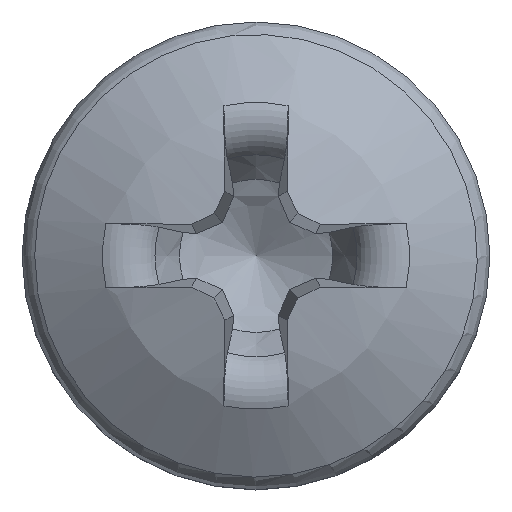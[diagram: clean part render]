
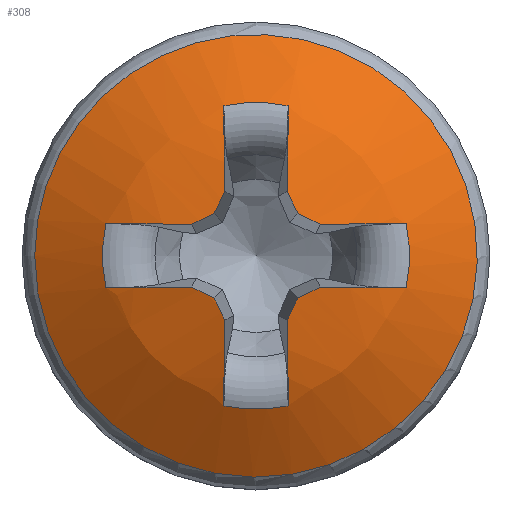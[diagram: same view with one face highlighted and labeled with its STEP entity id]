
A CAD part, top view. The second image highlights one B-rep face of the part: STEP entity #308.
In plain terms, the highlighted spherical face has radius 5.559 mm.
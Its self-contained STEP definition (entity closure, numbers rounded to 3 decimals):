
#279=SPHERICAL_SURFACE('',#1705,5.56);
#290=FACE_BOUND('',#519,.T.);
#291=FACE_BOUND('',#520,.T.);
#308=ADVANCED_FACE('',(#290,#291),#279,.T.);
#519=EDGE_LOOP('',(#685));
#520=EDGE_LOOP('',(#686,#687,#688,#689,#690,#691,#692,#693,#694,#695,#696,
#697,#698,#699,#700,#701,#702,#703,#704,#705));
#633=CIRCLE('',#1684,3.311);
#634=CIRCLE('',#1685,5.559);
#635=CIRCLE('',#1686,2.296);
#636=CIRCLE('',#1687,5.559);
#637=CIRCLE('',#1688,5.552);
#638=CIRCLE('',#1689,5.552);
#639=CIRCLE('',#1690,5.559);
#640=CIRCLE('',#1691,2.296);
#641=CIRCLE('',#1692,5.559);
#642=CIRCLE('',#1693,5.552);
#643=CIRCLE('',#1694,5.552);
#644=CIRCLE('',#1695,5.559);
#645=CIRCLE('',#1696,2.296);
#646=CIRCLE('',#1697,5.559);
#647=CIRCLE('',#1698,5.552);
#648=CIRCLE('',#1699,5.552);
#649=CIRCLE('',#1700,5.559);
#650=CIRCLE('',#1701,2.296);
#651=CIRCLE('',#1702,5.559);
#652=CIRCLE('',#1703,5.552);
#653=CIRCLE('',#1704,5.552);
#685=ORIENTED_EDGE('',*,*,#1321,.T.);
#686=ORIENTED_EDGE('',*,*,#1322,.F.);
#687=ORIENTED_EDGE('',*,*,#1323,.T.);
#688=ORIENTED_EDGE('',*,*,#1324,.F.);
#689=ORIENTED_EDGE('',*,*,#1325,.F.);
#690=ORIENTED_EDGE('',*,*,#1326,.F.);
#691=ORIENTED_EDGE('',*,*,#1327,.F.);
#692=ORIENTED_EDGE('',*,*,#1328,.T.);
#693=ORIENTED_EDGE('',*,*,#1329,.F.);
#694=ORIENTED_EDGE('',*,*,#1330,.F.);
#695=ORIENTED_EDGE('',*,*,#1331,.F.);
#696=ORIENTED_EDGE('',*,*,#1332,.F.);
#697=ORIENTED_EDGE('',*,*,#1333,.T.);
#698=ORIENTED_EDGE('',*,*,#1334,.F.);
#699=ORIENTED_EDGE('',*,*,#1335,.F.);
#700=ORIENTED_EDGE('',*,*,#1336,.F.);
#701=ORIENTED_EDGE('',*,*,#1337,.F.);
#702=ORIENTED_EDGE('',*,*,#1338,.T.);
#703=ORIENTED_EDGE('',*,*,#1339,.F.);
#704=ORIENTED_EDGE('',*,*,#1340,.F.);
#705=ORIENTED_EDGE('',*,*,#1341,.F.);
#1171=VERTEX_POINT('',#2271);
#1172=VERTEX_POINT('',#2273);
#1173=VERTEX_POINT('',#2274);
#1174=VERTEX_POINT('',#2276);
#1175=VERTEX_POINT('',#2278);
#1176=VERTEX_POINT('',#2280);
#1177=VERTEX_POINT('',#2282);
#1178=VERTEX_POINT('',#2284);
#1179=VERTEX_POINT('',#2286);
#1180=VERTEX_POINT('',#2288);
#1181=VERTEX_POINT('',#2290);
#1182=VERTEX_POINT('',#2292);
#1183=VERTEX_POINT('',#2294);
#1184=VERTEX_POINT('',#2296);
#1185=VERTEX_POINT('',#2298);
#1186=VERTEX_POINT('',#2300);
#1187=VERTEX_POINT('',#2302);
#1188=VERTEX_POINT('',#2304);
#1189=VERTEX_POINT('',#2306);
#1190=VERTEX_POINT('',#2308);
#1191=VERTEX_POINT('',#2310);
#1321=EDGE_CURVE('',#1171,#1171,#633,.T.);
#1322=EDGE_CURVE('',#1172,#1173,#634,.T.);
#1323=EDGE_CURVE('',#1172,#1174,#635,.T.);
#1324=EDGE_CURVE('',#1175,#1174,#636,.T.);
#1325=EDGE_CURVE('',#1176,#1175,#637,.T.);
#1326=EDGE_CURVE('',#1177,#1176,#638,.T.);
#1327=EDGE_CURVE('',#1178,#1177,#639,.T.);
#1328=EDGE_CURVE('',#1178,#1179,#640,.T.);
#1329=EDGE_CURVE('',#1180,#1179,#641,.T.);
#1330=EDGE_CURVE('',#1181,#1180,#642,.T.);
#1331=EDGE_CURVE('',#1182,#1181,#643,.T.);
#1332=EDGE_CURVE('',#1183,#1182,#644,.T.);
#1333=EDGE_CURVE('',#1183,#1184,#645,.T.);
#1334=EDGE_CURVE('',#1185,#1184,#646,.T.);
#1335=EDGE_CURVE('',#1186,#1185,#647,.T.);
#1336=EDGE_CURVE('',#1187,#1186,#648,.T.);
#1337=EDGE_CURVE('',#1188,#1187,#649,.T.);
#1338=EDGE_CURVE('',#1188,#1189,#650,.T.);
#1339=EDGE_CURVE('',#1190,#1189,#651,.T.);
#1340=EDGE_CURVE('',#1191,#1190,#652,.T.);
#1341=EDGE_CURVE('',#1173,#1191,#653,.T.);
#1684=AXIS2_PLACEMENT_3D('',#2270,#1767,#1768);
#1685=AXIS2_PLACEMENT_3D('',#2272,#1769,#1770);
#1686=AXIS2_PLACEMENT_3D('',#2275,#1771,#1772);
#1687=AXIS2_PLACEMENT_3D('',#2277,#1773,#1774);
#1688=AXIS2_PLACEMENT_3D('',#2279,#1775,#1776);
#1689=AXIS2_PLACEMENT_3D('',#2281,#1777,#1778);
#1690=AXIS2_PLACEMENT_3D('',#2283,#1779,#1780);
#1691=AXIS2_PLACEMENT_3D('',#2285,#1781,#1782);
#1692=AXIS2_PLACEMENT_3D('',#2287,#1783,#1784);
#1693=AXIS2_PLACEMENT_3D('',#2289,#1785,#1786);
#1694=AXIS2_PLACEMENT_3D('',#2291,#1787,#1788);
#1695=AXIS2_PLACEMENT_3D('',#2293,#1789,#1790);
#1696=AXIS2_PLACEMENT_3D('',#2295,#1791,#1792);
#1697=AXIS2_PLACEMENT_3D('',#2297,#1793,#1794);
#1698=AXIS2_PLACEMENT_3D('',#2299,#1795,#1796);
#1699=AXIS2_PLACEMENT_3D('',#2301,#1797,#1798);
#1700=AXIS2_PLACEMENT_3D('',#2303,#1799,#1800);
#1701=AXIS2_PLACEMENT_3D('',#2305,#1801,#1802);
#1702=AXIS2_PLACEMENT_3D('',#2307,#1803,#1804);
#1703=AXIS2_PLACEMENT_3D('',#2309,#1805,#1806);
#1704=AXIS2_PLACEMENT_3D('',#2311,#1807,#1808);
#1705=AXIS2_PLACEMENT_3D('',#2312,#1809,#1810);
#1767=DIRECTION('',(0.,0.,1.));
#1768=DIRECTION('',(-1.,0.,0.));
#1769=DIRECTION('',(-0.996,-0.035,0.087));
#1770=DIRECTION('',(0.087,0.,0.996));
#1771=DIRECTION('',(0.,0.,-1.));
#1772=DIRECTION('',(-1.,0.,0.));
#1773=DIRECTION('',(0.996,-0.035,0.087));
#1774=DIRECTION('',(0.087,0.,-0.996));
#1775=DIRECTION('',(0.902,0.42,0.1));
#1776=DIRECTION('',(-0.423,0.906,0.));
#1777=DIRECTION('',(0.42,0.902,0.1));
#1778=DIRECTION('',(-0.906,0.423,0.));
#1779=DIRECTION('',(-0.035,0.996,0.087));
#1780=DIRECTION('',(0.,-0.087,0.996));
#1781=DIRECTION('',(0.,0.,-1.));
#1782=DIRECTION('',(-1.,0.,0.));
#1783=DIRECTION('',(-0.035,-0.996,0.087));
#1784=DIRECTION('',(0.,-0.087,-0.996));
#1785=DIRECTION('',(0.42,-0.902,0.1));
#1786=DIRECTION('',(0.906,0.423,0.));
#1787=DIRECTION('',(0.902,-0.42,0.1));
#1788=DIRECTION('',(0.423,0.906,0.));
#1789=DIRECTION('',(0.996,0.035,0.087));
#1790=DIRECTION('',(0.087,0.,-0.996));
#1791=DIRECTION('',(0.,0.,-1.));
#1792=DIRECTION('',(-1.,0.,0.));
#1793=DIRECTION('',(-0.996,0.035,0.087));
#1794=DIRECTION('',(0.087,0.,0.996));
#1795=DIRECTION('',(-0.902,-0.42,0.1));
#1796=DIRECTION('',(0.423,-0.906,0.));
#1797=DIRECTION('',(-0.42,-0.902,0.1));
#1798=DIRECTION('',(0.906,-0.423,0.));
#1799=DIRECTION('',(0.035,-0.996,0.087));
#1800=DIRECTION('',(0.,-0.087,-0.996));
#1801=DIRECTION('',(0.,0.,-1.));
#1802=DIRECTION('',(-1.,0.,0.));
#1803=DIRECTION('',(0.035,0.996,0.087));
#1804=DIRECTION('',(0.,-0.087,0.996));
#1805=DIRECTION('',(-0.42,0.902,0.1));
#1806=DIRECTION('',(-0.906,-0.423,0.));
#1807=DIRECTION('',(-0.902,0.42,0.1));
#1808=DIRECTION('',(-0.423,-0.906,0.));
#1809=DIRECTION('',(0.,0.,1.));
#1810=DIRECTION('',(0.,1.,0.));
#2270=CARTESIAN_POINT('',(0.,0.,2.006));
#2271=CARTESIAN_POINT('',(-3.311,0.,2.006));
#2272=CARTESIAN_POINT('',(-0.042,-0.001,-2.456));
#2273=CARTESIAN_POINT('',(0.479,-2.246,2.604));
#2274=CARTESIAN_POINT('',(0.469,-0.964,2.996));
#2275=CARTESIAN_POINT('',(0.,0.,2.604));
#2276=CARTESIAN_POINT('',(-0.479,-2.246,2.604));
#2277=CARTESIAN_POINT('',(0.042,-0.001,-2.456));
#2278=CARTESIAN_POINT('',(-0.469,-0.964,2.996));
#2279=CARTESIAN_POINT('',(-0.254,-0.118,-2.488));
#2280=CARTESIAN_POINT('',(-0.629,-0.629,3.028));
#2281=CARTESIAN_POINT('',(-0.118,-0.254,-2.488));
#2282=CARTESIAN_POINT('',(-0.964,-0.469,2.996));
#2283=CARTESIAN_POINT('',(-0.001,0.042,-2.456));
#2284=CARTESIAN_POINT('',(-2.246,-0.479,2.604));
#2285=CARTESIAN_POINT('',(0.,0.,2.604));
#2286=CARTESIAN_POINT('',(-2.246,0.479,2.604));
#2287=CARTESIAN_POINT('',(-0.001,-0.042,-2.456));
#2288=CARTESIAN_POINT('',(-0.964,0.469,2.996));
#2289=CARTESIAN_POINT('',(-0.118,0.254,-2.488));
#2290=CARTESIAN_POINT('',(-0.629,0.629,3.028));
#2291=CARTESIAN_POINT('',(-0.254,0.118,-2.488));
#2292=CARTESIAN_POINT('',(-0.469,0.964,2.996));
#2293=CARTESIAN_POINT('',(0.042,0.001,-2.456));
#2294=CARTESIAN_POINT('',(-0.479,2.246,2.604));
#2295=CARTESIAN_POINT('',(0.,0.,2.604));
#2296=CARTESIAN_POINT('',(0.479,2.246,2.604));
#2297=CARTESIAN_POINT('',(-0.042,0.001,-2.456));
#2298=CARTESIAN_POINT('',(0.469,0.964,2.996));
#2299=CARTESIAN_POINT('',(0.254,0.118,-2.488));
#2300=CARTESIAN_POINT('',(0.629,0.629,3.028));
#2301=CARTESIAN_POINT('',(0.118,0.254,-2.488));
#2302=CARTESIAN_POINT('',(0.964,0.469,2.996));
#2303=CARTESIAN_POINT('',(0.001,-0.042,-2.456));
#2304=CARTESIAN_POINT('',(2.246,0.479,2.604));
#2305=CARTESIAN_POINT('',(0.,0.,2.604));
#2306=CARTESIAN_POINT('',(2.246,-0.479,2.604));
#2307=CARTESIAN_POINT('',(0.001,0.042,-2.456));
#2308=CARTESIAN_POINT('',(0.964,-0.469,2.996));
#2309=CARTESIAN_POINT('',(0.118,-0.254,-2.488));
#2310=CARTESIAN_POINT('',(0.629,-0.629,3.028));
#2311=CARTESIAN_POINT('',(0.254,-0.118,-2.488));
#2312=CARTESIAN_POINT('',(0.,0.,-2.46));
